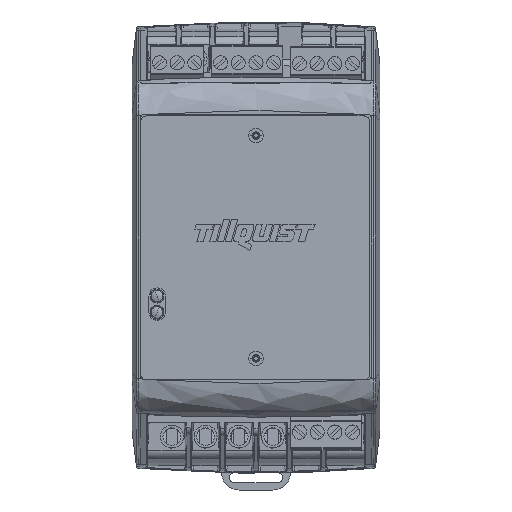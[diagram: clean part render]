
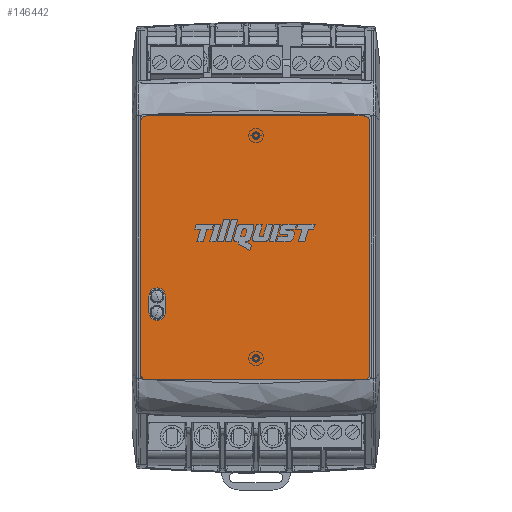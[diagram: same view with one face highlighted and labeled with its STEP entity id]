
A CAD part, top view. The second image highlights one B-rep face of the part: STEP entity #146442.
In plain terms, the highlighted planar face has unit normal (0, 0, 1).
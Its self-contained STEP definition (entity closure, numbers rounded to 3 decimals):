
#1225 = EDGE_LOOP ( 'NONE', ( #189162, #93900, #168751, #13728, #76407, #120978, #19077, #21586 ) ) ;
#4216 = CARTESIAN_POINT ( 'NONE',  ( -30., 23.7, 0.1 ) ) ;
#4751 = CARTESIAN_POINT ( 'NONE',  ( 32.3, 74.6, 0.1 ) ) ;
#5089 = VECTOR ( 'NONE', #126078, 1000. ) ;
#6107 = CARTESIAN_POINT ( 'NONE',  ( -32.3, 74.6, 0.1 ) ) ;
#8603 = ORIENTED_EDGE ( 'NONE', *, *, #178915, .F. ) ;
#13728 = ORIENTED_EDGE ( 'NONE', *, *, #178339, .T. ) ;
#15610 = VERTEX_POINT ( 'NONE', #37106 ) ;
#16385 = CARTESIAN_POINT ( 'NONE',  ( 30.8, 1.5, 0.1 ) ) ;
#19077 = ORIENTED_EDGE ( 'NONE', *, *, #49716, .T. ) ;
#19953 = DIRECTION ( 'NONE',  ( -1., 0., 0. ) ) ;
#20584 = AXIS2_PLACEMENT_3D ( 'NONE', #130255, #191985, #173100 ) ;
#21149 = VECTOR ( 'NONE', #127783, 1000. ) ;
#21392 = LINE ( 'NONE', #36292, #173969 ) ;
#21435 = VERTEX_POINT ( 'NONE', #174766 ) ;
#21586 = ORIENTED_EDGE ( 'NONE', *, *, #105395, .T. ) ;
#22385 = LINE ( 'NONE', #161559, #21149 ) ;
#23873 = DIRECTION ( 'NONE',  ( -1., 0., 0. ) ) ;
#27646 = EDGE_CURVE ( 'NONE', #15610, #32004, #81912, .T. ) ;
#29821 = FACE_BOUND ( 'NONE', #82392, .T. ) ;
#32004 = VERTEX_POINT ( 'NONE', #193895 ) ;
#34074 = DIRECTION ( 'NONE',  ( 0., -1., 0. ) ) ;
#36292 = CARTESIAN_POINT ( 'NONE',  ( 32.3, 0., 0.1 ) ) ;
#37106 = CARTESIAN_POINT ( 'NONE',  ( -30., 19.1, 0.1 ) ) ;
#43884 = CIRCLE ( 'NONE', #183724, 2.3 ) ;
#45080 = CARTESIAN_POINT ( 'NONE',  ( -30., 23.7, 0.1 ) ) ;
#46561 = VERTEX_POINT ( 'NONE', #157612 ) ;
#49036 = AXIS2_PLACEMENT_3D ( 'NONE', #159135, #83577, #23873 ) ;
#49716 = EDGE_CURVE ( 'NONE', #70577, #56954, #22385, .T. ) ;
#50333 = DIRECTION ( 'NONE',  ( 0., 1., 0. ) ) ;
#51290 = VECTOR ( 'NONE', #52887, 1000. ) ;
#52887 = DIRECTION ( 'NONE',  ( 0., -1., 0. ) ) ;
#54846 = LINE ( 'NONE', #6107, #51290 ) ;
#56954 = VERTEX_POINT ( 'NONE', #148090 ) ;
#58785 = CIRCLE ( 'NONE', #20584, 1.5 ) ;
#59383 = EDGE_CURVE ( 'NONE', #46561, #177937, #140978, .T. ) ;
#60167 = DIRECTION ( 'NONE',  ( 0., 0., 1. ) ) ;
#62994 = EDGE_CURVE ( 'NONE', #139842, #64798, #21392, .T. ) ;
#63818 = ORIENTED_EDGE ( 'NONE', *, *, #191565, .F. ) ;
#64798 = VERTEX_POINT ( 'NONE', #102358 ) ;
#67201 = CARTESIAN_POINT ( 'NONE',  ( -32.3, 1.5, 0.1 ) ) ;
#68584 = DIRECTION ( 'NONE',  ( 0., 0., -1. ) ) ;
#70577 = VERTEX_POINT ( 'NONE', #169592 ) ;
#71474 = CARTESIAN_POINT ( 'NONE',  ( -27.7, 19.1, 0.1 ) ) ;
#76407 = ORIENTED_EDGE ( 'NONE', *, *, #59383, .T. ) ;
#78187 = DIRECTION ( 'NONE',  ( 1., 0., 0. ) ) ;
#78613 = FACE_OUTER_BOUND ( 'NONE', #1225, .T. ) ;
#81912 = CIRCLE ( 'NONE', #193051, 2.3 ) ;
#82392 = EDGE_LOOP ( 'NONE', ( #8603, #63818, #149989, #138381 ) ) ;
#83577 = DIRECTION ( 'NONE',  ( 0., 0., 1. ) ) ;
#87765 = VERTEX_POINT ( 'NONE', #67201 ) ;
#88062 = AXIS2_PLACEMENT_3D ( 'NONE', #16385, #60167, #166532 ) ;
#89452 = CARTESIAN_POINT ( 'NONE',  ( 32.3, 73.1, 0.1 ) ) ;
#90477 = DIRECTION ( 'NONE',  ( 1., 0., 0. ) ) ;
#91589 = CARTESIAN_POINT ( 'NONE',  ( -30.8, 1.5, 0.1 ) ) ;
#92133 = VERTEX_POINT ( 'NONE', #45080 ) ;
#93900 = ORIENTED_EDGE ( 'NONE', *, *, #166093, .T. ) ;
#96692 = EDGE_CURVE ( 'NONE', #92133, #15610, #173263, .T. ) ;
#100761 = AXIS2_PLACEMENT_3D ( 'NONE', #91589, #186045, #19953 ) ;
#102358 = CARTESIAN_POINT ( 'NONE',  ( 30.8, 0., 0.1 ) ) ;
#105395 = EDGE_CURVE ( 'NONE', #56954, #144490, #179099, .T. ) ;
#110959 = CARTESIAN_POINT ( 'NONE',  ( -25.4, 23.7, 0.1 ) ) ;
#113137 = EDGE_CURVE ( 'NONE', #144490, #87765, #54846, .T. ) ;
#115183 = DIRECTION ( 'NONE',  ( 1., 0., 0. ) ) ;
#118971 = VECTOR ( 'NONE', #34074, 1000. ) ;
#120978 = ORIENTED_EDGE ( 'NONE', *, *, #124532, .T. ) ;
#124532 = EDGE_CURVE ( 'NONE', #177937, #70577, #58785, .T. ) ;
#126030 = CIRCLE ( 'NONE', #100761, 1.5 ) ;
#126078 = DIRECTION ( 'NONE',  ( 0., 1., 0. ) ) ;
#127219 = DIRECTION ( 'NONE',  ( -1., 0., 0. ) ) ;
#127783 = DIRECTION ( 'NONE',  ( -1., 0., 0. ) ) ;
#130255 = CARTESIAN_POINT ( 'NONE',  ( 30.8, 73.1, 0.1 ) ) ;
#138381 = ORIENTED_EDGE ( 'NONE', *, *, #96692, .F. ) ;
#139842 = VERTEX_POINT ( 'NONE', #194982 ) ;
#140978 = LINE ( 'NONE', #4751, #5089 ) ;
#142685 = LINE ( 'NONE', #110959, #194082 ) ;
#144490 = VERTEX_POINT ( 'NONE', #171590 ) ;
#146442 = ADVANCED_FACE ( 'NONE', ( #78613, #29821 ), #184931, .F. ) ;
#148090 = CARTESIAN_POINT ( 'NONE',  ( -30.8, 74.6, 0.1 ) ) ;
#149989 = ORIENTED_EDGE ( 'NONE', *, *, #27646, .F. ) ;
#157612 = CARTESIAN_POINT ( 'NONE',  ( 32.3, 1.5, 0.1 ) ) ;
#159135 = CARTESIAN_POINT ( 'NONE',  ( -30.8, 73.1, 0.1 ) ) ;
#161559 = CARTESIAN_POINT ( 'NONE',  ( 32.3, 74.6, 0.1 ) ) ;
#166093 = EDGE_CURVE ( 'NONE', #87765, #139842, #126030, .T. ) ;
#166532 = DIRECTION ( 'NONE',  ( -1., 0., 0. ) ) ;
#168751 = ORIENTED_EDGE ( 'NONE', *, *, #62994, .T. ) ;
#169592 = CARTESIAN_POINT ( 'NONE',  ( 30.8, 74.6, 0.1 ) ) ;
#171590 = CARTESIAN_POINT ( 'NONE',  ( -32.3, 73.1, 0.1 ) ) ;
#173100 = DIRECTION ( 'NONE',  ( -1., 0., 0. ) ) ;
#173263 = LINE ( 'NONE', #4216, #118971 ) ;
#173969 = VECTOR ( 'NONE', #78187, 1000. ) ;
#174766 = CARTESIAN_POINT ( 'NONE',  ( -25.4, 23.7, 0.1 ) ) ;
#177937 = VERTEX_POINT ( 'NONE', #89452 ) ;
#178339 = EDGE_CURVE ( 'NONE', #64798, #46561, #183302, .T. ) ;
#178915 = EDGE_CURVE ( 'NONE', #21435, #92133, #43884, .T. ) ;
#179099 = CIRCLE ( 'NONE', #49036, 1.5 ) ;
#180932 = DIRECTION ( 'NONE',  ( 0., 0., 1. ) ) ;
#183302 = CIRCLE ( 'NONE', #88062, 1.5 ) ;
#183724 = AXIS2_PLACEMENT_3D ( 'NONE', #193993, #180932, #90477 ) ;
#184931 = PLANE ( 'NONE',  #191692 ) ;
#186045 = DIRECTION ( 'NONE',  ( 0., 0., 1. ) ) ;
#189162 = ORIENTED_EDGE ( 'NONE', *, *, #113137, .T. ) ;
#189890 = CARTESIAN_POINT ( 'NONE',  ( 0., 0., 0.1 ) ) ;
#191565 = EDGE_CURVE ( 'NONE', #32004, #21435, #142685, .T. ) ;
#191692 = AXIS2_PLACEMENT_3D ( 'NONE', #189890, #68584, #127219 ) ;
#191985 = DIRECTION ( 'NONE',  ( 0., 0., 1. ) ) ;
#192763 = DIRECTION ( 'NONE',  ( 0., 0., 1. ) ) ;
#193051 = AXIS2_PLACEMENT_3D ( 'NONE', #71474, #192763, #115183 ) ;
#193895 = CARTESIAN_POINT ( 'NONE',  ( -25.4, 19.1, 0.1 ) ) ;
#193993 = CARTESIAN_POINT ( 'NONE',  ( -27.7, 23.7, 0.1 ) ) ;
#194082 = VECTOR ( 'NONE', #50333, 1000. ) ;
#194982 = CARTESIAN_POINT ( 'NONE',  ( -30.8, 0., 0.1 ) ) ;
